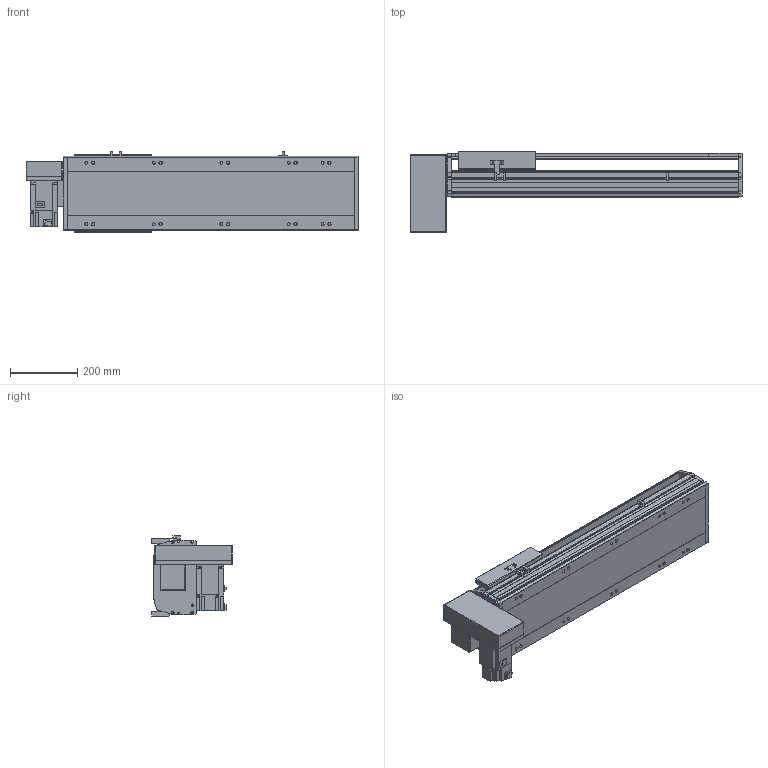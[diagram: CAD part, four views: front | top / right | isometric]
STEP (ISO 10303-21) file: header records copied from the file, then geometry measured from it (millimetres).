
FILE_DESCRIPTION(/* description */ ('STEP AP214'),/* implementation_level */ '2;1');
FILE_NAME(/* name */ 'PBS220-P40-S500-RD-T75-C1-N(0)',/* time_stamp */ '2022-06-13T02:41:04+02:00',/* author */ ('License CC BY-ND 4.0'),/* organization */ ('CADENAS'),/* preprocessor_version */ 'ST-DEVELOPER v18.102',/* originating_system */ 'PARTsolutions',/* authorisation */ ' ');
FILE_SCHEMA (('AUTOMOTIVE_DESIGN {1 0 10303 214 3 1 1}'));
Length unit declared in the file: millimetre
Products named in the file (7): PBS220-P40-S500-RD-T75-C1-N(0); PBS220_sensor; PBS220_plant; PBS220_sliser; T75-p1; PBS220T-RD_motors; PBS220-S500()_body
Assembly tree (8 placements, depth 2):
  PBS220-P40-S500-RD-T75-C1-N(0)
    PBS220_sensor  x3
    PBS220_plant
    PBS220_sliser
    T75-p1
    PBS220T-RD_motors
    PBS220-S500()_body
Bounding box: 984 x 239 x 238.5 mm (x, y, z)
Volume: 14722213.8 mm3; surface area: 1527729.6 mm2
Topology: 8 solids, 8 shells, 878 faces, 2312 edges, 1504 vertices
Faces by surface type: plane 586, cylinder 258, cone 34
Full cylindrical faces by diameter (mm): 2.013 x4, 4.5 x14, 4.917 x4, 6 x7, 6.647 x8, 8 x10, 8.376 x10, 8.5 x10, 10 x6, 14 x10, 38 x2, 40 x1, 70 x1
Entity records: 24693 total; most frequent: CARTESIAN_POINT 4294, DIRECTION 4293, ORIENTED_EDGE 3998, EDGE_CURVE 1999, AXIS2_PLACEMENT_3D 1477, VERTEX_POINT 1368, LINE 1339, VECTOR 1339
